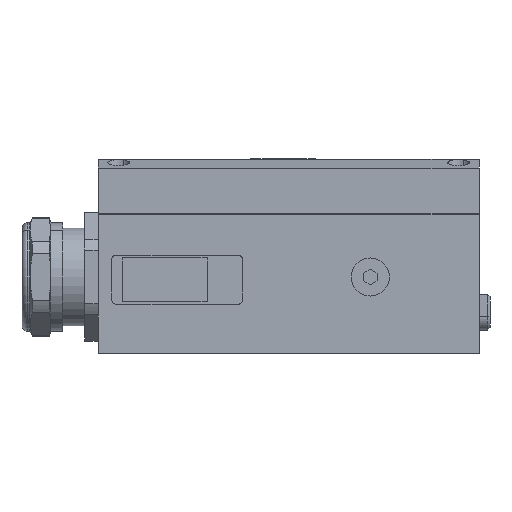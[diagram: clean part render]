
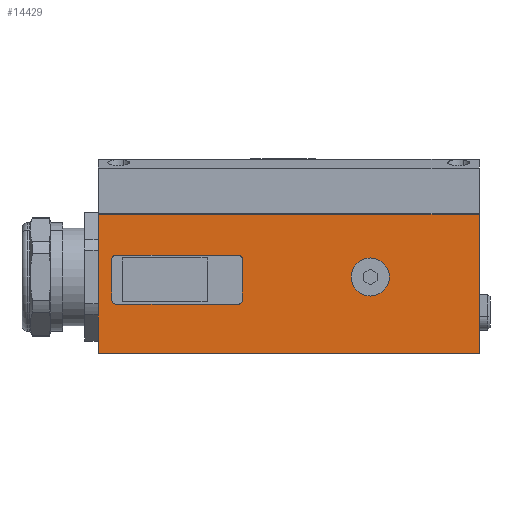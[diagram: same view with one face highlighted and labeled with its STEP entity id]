
A CAD part, left-side view. The second image highlights one B-rep face of the part: STEP entity #14429.
In plain terms, the highlighted planar face has unit normal (-1, 0, 0).
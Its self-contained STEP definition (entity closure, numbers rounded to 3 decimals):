
#28 = CIRCLE ( 'NONE', #42362, 1.5 ) ;
#54 = LINE ( 'NONE', #12923, #61 ) ;
#61 = VECTOR ( 'NONE', #12932, 1000. ) ;
#65 = CIRCLE ( 'NONE', #42363, 1.5 ) ;
#69 = LINE ( 'NONE', #12942, #73 ) ;
#72 = LINE ( 'NONE', #12967, #83 ) ;
#73 = VECTOR ( 'NONE', #12950, 1000. ) ;
#74 = LINE ( 'NONE', #12951, #75 ) ;
#75 = VECTOR ( 'NONE', #12948, 1000. ) ;
#76 = CIRCLE ( 'NONE', #42364, 7. ) ;
#78 = LINE ( 'NONE', #12960, #80 ) ;
#79 = CIRCLE ( 'NONE', #42365, 1.5 ) ;
#80 = VECTOR ( 'NONE', #12953, 1000. ) ;
#83 = VECTOR ( 'NONE', #12962, 1000. ) ;
#84 = LINE ( 'NONE', #12973, #87 ) ;
#87 = VECTOR ( 'NONE', #12974, 1000. ) ;
#114 = LINE ( 'NONE', #13021, #116 ) ;
#116 = VECTOR ( 'NONE', #13022, 1000. ) ;
#148 = CIRCLE ( 'NONE', #42382, 1.5 ) ;
#2666 = CARTESIAN_POINT ( 'NONE',  ( -90., -30., 28. ) ) ;
#2667 = DIRECTION ( 'NONE',  ( 1., 0., 0. ) ) ;
#2668 = DIRECTION ( 'NONE',  ( 0., 0., -1. ) ) ;
#3020 = CIRCLE ( 'NONE', #6909, 7. ) ;
#3141 = LINE ( 'NONE', #40348, #3147 ) ;
#3147 = VECTOR ( 'NONE', #40353, 1000. ) ;
#6909 = AXIS2_PLACEMENT_3D ( 'NONE', #2666, #2667, #2668 ) ;
#7333 = EDGE_CURVE ( 'NONE', #20590, #20734, #3020, .T. ) ;
#7421 = EDGE_CURVE ( 'NONE', #20556, #20693, #3141, .T. ) ;
#7904 = ORIENTED_EDGE ( 'NONE', *, *, #20775, .F. ) ;
#7906 = ORIENTED_EDGE ( 'NONE', *, *, #20790, .F. ) ;
#7908 = ORIENTED_EDGE ( 'NONE', *, *, #20788, .F. ) ;
#7910 = ORIENTED_EDGE ( 'NONE', *, *, #20741, .F. ) ;
#7912 = ORIENTED_EDGE ( 'NONE', *, *, #20803, .F. ) ;
#7915 = ORIENTED_EDGE ( 'NONE', *, *, #20801, .F. ) ;
#7917 = ORIENTED_EDGE ( 'NONE', *, *, #20827, .F. ) ;
#7919 = ORIENTED_EDGE ( 'NONE', *, *, #20844, .F. ) ;
#7921 = ORIENTED_EDGE ( 'NONE', *, *, #7421, .T. ) ;
#7923 = ORIENTED_EDGE ( 'NONE', *, *, #20792, .T. ) ;
#7925 = ORIENTED_EDGE ( 'NONE', *, *, #20799, .F. ) ;
#7928 = ORIENTED_EDGE ( 'NONE', *, *, #20806, .F. ) ;
#7929 = ORIENTED_EDGE ( 'NONE', *, *, #20797, .T. ) ;
#7931 = ORIENTED_EDGE ( 'NONE', *, *, #7333, .T. ) ;
#12228 = CARTESIAN_POINT ( 'NONE',  ( -90., -70., 0. ) ) ;
#12253 = CARTESIAN_POINT ( 'NONE',  ( -90., 17., 34.5 ) ) ;
#12268 = CARTESIAN_POINT ( 'NONE',  ( -90., -70., 51. ) ) ;
#12289 = CARTESIAN_POINT ( 'NONE',  ( -90., 63.5, 18. ) ) ;
#12312 = CARTESIAN_POINT ( 'NONE',  ( -90., 63.5, 36. ) ) ;
#12328 = CARTESIAN_POINT ( 'NONE',  ( -90., 18.5, 36. ) ) ;
#12336 = CARTESIAN_POINT ( 'NONE',  ( -90., 17., 19.5 ) ) ;
#12341 = CARTESIAN_POINT ( 'NONE',  ( -90., 65., 34.5 ) ) ;
#12344 = CARTESIAN_POINT ( 'NONE',  ( -90., 65., 19.5 ) ) ;
#12555 = CARTESIAN_POINT ( 'NONE',  ( -90., 70., 51. ) ) ;
#12609 = CARTESIAN_POINT ( 'NONE',  ( -90., -30., 21. ) ) ;
#12781 = CARTESIAN_POINT ( 'NONE',  ( -90., 70., 0. ) ) ;
#12857 = CARTESIAN_POINT ( 'NONE',  ( -90., -30., 35. ) ) ;
#12880 = CARTESIAN_POINT ( 'NONE',  ( -90., 18.5, 19.5 ) ) ;
#12881 = DIRECTION ( 'NONE',  ( -1., 0., 0. ) ) ;
#12882 = DIRECTION ( 'NONE',  ( 0., -1., 0. ) ) ;
#12923 = CARTESIAN_POINT ( 'NONE',  ( -90., 65., 19.5 ) ) ;
#12932 = DIRECTION ( 'NONE',  ( 0., 0., -1. ) ) ;
#12942 = CARTESIAN_POINT ( 'NONE',  ( -90., 63.5, 18. ) ) ;
#12948 = DIRECTION ( 'NONE',  ( 0., 1., 0. ) ) ;
#12950 = DIRECTION ( 'NONE',  ( 0., -1., 0. ) ) ;
#12951 = CARTESIAN_POINT ( 'NONE',  ( -90., -0.7, 51. ) ) ;
#12953 = DIRECTION ( 'NONE',  ( 0., 0., -1. ) ) ;
#12954 = CARTESIAN_POINT ( 'NONE',  ( -90., 63.5, 19.5 ) ) ;
#12955 = DIRECTION ( 'NONE',  ( -1., 0., 0. ) ) ;
#12956 = DIRECTION ( 'NONE',  ( 0., 1., 0. ) ) ;
#12960 = CARTESIAN_POINT ( 'NONE',  ( -90., -70., 25.755 ) ) ;
#12962 = DIRECTION ( 'NONE',  ( 0., 0., 1. ) ) ;
#12963 = CARTESIAN_POINT ( 'NONE',  ( -90., -30., 28. ) ) ;
#12964 = DIRECTION ( 'NONE',  ( 1., 0., 0. ) ) ;
#12965 = DIRECTION ( 'NONE',  ( 0., 0., -1. ) ) ;
#12967 = CARTESIAN_POINT ( 'NONE',  ( -90., 17., 19.5 ) ) ;
#12968 = CARTESIAN_POINT ( 'NONE',  ( -90., 18.5, 34.5 ) ) ;
#12969 = DIRECTION ( 'NONE',  ( -1., 0., 0. ) ) ;
#12970 = DIRECTION ( 'NONE',  ( 0., 1., 0. ) ) ;
#12973 = CARTESIAN_POINT ( 'NONE',  ( -90., 0., 0. ) ) ;
#12974 = DIRECTION ( 'NONE',  ( 0., 1., 0. ) ) ;
#13021 = CARTESIAN_POINT ( 'NONE',  ( -90., 63.5, 36. ) ) ;
#13022 = DIRECTION ( 'NONE',  ( 0., 1., 0. ) ) ;
#13068 = CARTESIAN_POINT ( 'NONE',  ( -90., 63.5, 34.5 ) ) ;
#13069 = DIRECTION ( 'NONE',  ( -1., 0., 0. ) ) ;
#13070 = DIRECTION ( 'NONE',  ( 0., 1., 0. ) ) ;
#14429 = ADVANCED_FACE ( 'NONE', ( #22384, #22383, #22381 ), #29848, .T. ) ;
#17792 = EDGE_LOOP ( 'NONE', ( #7928, #7925, #7923, #7921 ) ) ;
#17797 = EDGE_LOOP ( 'NONE', ( #7919, #7917, #7915, #7912, #7910, #7908, #7906, #7904 ) ) ;
#17798 = EDGE_LOOP ( 'NONE', ( #7931, #7929 ) ) ;
#20292 = VERTEX_POINT ( 'NONE', #25318 ) ;
#20361 = VERTEX_POINT ( 'NONE', #12228 ) ;
#20374 = VERTEX_POINT ( 'NONE', #12253 ) ;
#20382 = VERTEX_POINT ( 'NONE', #12268 ) ;
#20395 = VERTEX_POINT ( 'NONE', #12289 ) ;
#20412 = VERTEX_POINT ( 'NONE', #12312 ) ;
#20419 = VERTEX_POINT ( 'NONE', #12328 ) ;
#20423 = VERTEX_POINT ( 'NONE', #12336 ) ;
#20429 = VERTEX_POINT ( 'NONE', #12341 ) ;
#20431 = VERTEX_POINT ( 'NONE', #12344 ) ;
#20556 = VERTEX_POINT ( 'NONE', #12555 ) ;
#20590 = VERTEX_POINT ( 'NONE', #12609 ) ;
#20693 = VERTEX_POINT ( 'NONE', #12781 ) ;
#20734 = VERTEX_POINT ( 'NONE', #12857 ) ;
#20741 = EDGE_CURVE ( 'NONE', #20292, #20423, #28, .T. ) ;
#20775 = EDGE_CURVE ( 'NONE', #20429, #20431, #54, .T. ) ;
#20788 = EDGE_CURVE ( 'NONE', #20395, #20292, #69, .T. ) ;
#20790 = EDGE_CURVE ( 'NONE', #20431, #20395, #65, .T. ) ;
#20792 = EDGE_CURVE ( 'NONE', #20382, #20556, #74, .T. ) ;
#20797 = EDGE_CURVE ( 'NONE', #20734, #20590, #76, .T. ) ;
#20799 = EDGE_CURVE ( 'NONE', #20382, #20361, #78, .T. ) ;
#20801 = EDGE_CURVE ( 'NONE', #20374, #20419, #79, .T. ) ;
#20803 = EDGE_CURVE ( 'NONE', #20423, #20374, #72, .T. ) ;
#20806 = EDGE_CURVE ( 'NONE', #20361, #20693, #84, .T. ) ;
#20827 = EDGE_CURVE ( 'NONE', #20419, #20412, #114, .T. ) ;
#20844 = EDGE_CURVE ( 'NONE', #20412, #20429, #148, .T. ) ;
#22381 = FACE_BOUND ( 'NONE', #17797, .T. ) ;
#22383 = FACE_OUTER_BOUND ( 'NONE', #17792, .T. ) ;
#22384 = FACE_BOUND ( 'NONE', #17798, .T. ) ;
#25318 = CARTESIAN_POINT ( 'NONE',  ( -90., 18.5, 18. ) ) ;
#29832 = DIRECTION ( 'NONE',  ( -1., 0., 0. ) ) ;
#29847 = CARTESIAN_POINT ( 'NONE',  ( -90., 70., -5.1 ) ) ;
#29848 = PLANE ( 'NONE',  #36026 ) ;
#29850 = DIRECTION ( 'NONE',  ( 0., -1., 0. ) ) ;
#36026 = AXIS2_PLACEMENT_3D ( 'NONE', #29847, #29832, #29850 ) ;
#40348 = CARTESIAN_POINT ( 'NONE',  ( -90., 70., 25.755 ) ) ;
#40353 = DIRECTION ( 'NONE',  ( 0., 0., -1. ) ) ;
#42362 = AXIS2_PLACEMENT_3D ( 'NONE', #12880, #12881, #12882 ) ;
#42363 = AXIS2_PLACEMENT_3D ( 'NONE', #12954, #12955, #12956 ) ;
#42364 = AXIS2_PLACEMENT_3D ( 'NONE', #12963, #12964, #12965 ) ;
#42365 = AXIS2_PLACEMENT_3D ( 'NONE', #12968, #12969, #12970 ) ;
#42382 = AXIS2_PLACEMENT_3D ( 'NONE', #13068, #13069, #13070 ) ;
